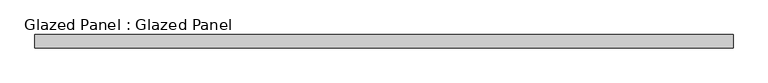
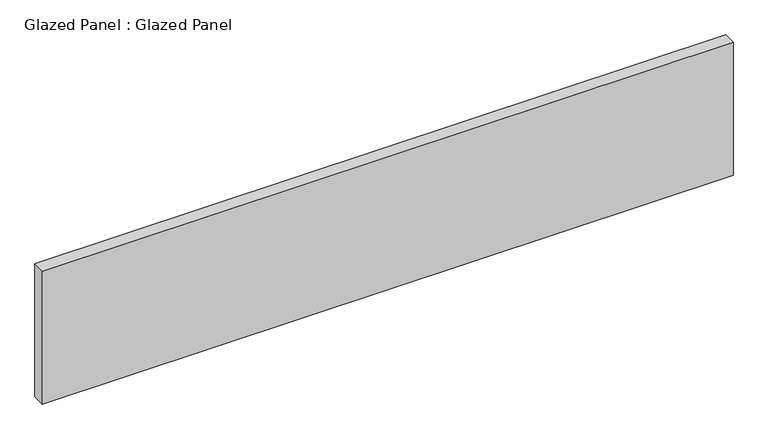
"""IFC4 building model written with IfcOpenShell, lengths in millimetres: plate geometry, Glazed Panel : Glazed Panel."""

from ifc_helpers import new_model, si_unit, origin, origin_with_axes, place, context, project, spatial, polyline, outline, extrude, source, transform, mapped, element, save


def glazed_panel_glazed_panel_8b6f093a(model_context):
    return source(origin(), model_context, "Body", "SweptSolid", [
        extrude(outline(polyline([(670.71875, 38.1), (-670.71875, 38.1), (-670.71875, 63.5), (670.71875, 63.5), (670.71875, 38.1)])), origin_with_axes(), (0.0, 0.0, 1.0), 273.05),
    ])


if __name__ == "__main__":
    model = new_model("IFC4")
    model_context = context("Model", 3, world=origin())
    ifc_project = project(units=[si_unit("LENGTHUNIT", "METRE", prefix="MILLI")], contexts=[model_context])
    site = spatial("IfcSite", under=ifc_project)
    building = spatial("IfcBuilding", under=site)
    placement = place(None, origin())
    glazed_panel_glazed_panel_shape = glazed_panel_glazed_panel_8b6f093a(model_context)
    element("IfcPlate", 1, ObjectType="Glazed Panel : Glazed Panel", at=placement, inside=building, context=model_context, shape_type="MappedRepresentation", body=[
        mapped(glazed_panel_glazed_panel_shape, transform((0.0, 0.0, 0.0), x_axis=(1.0, 0.0, 0.0), y_axis=(0.0, 1.0, 0.0), z_axis=(0.0, 0.0, 1.0))),
    ])
    save(model, "model.ifc")
